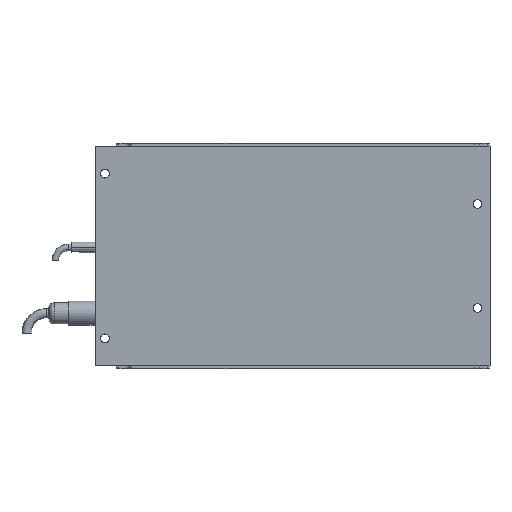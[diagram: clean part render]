
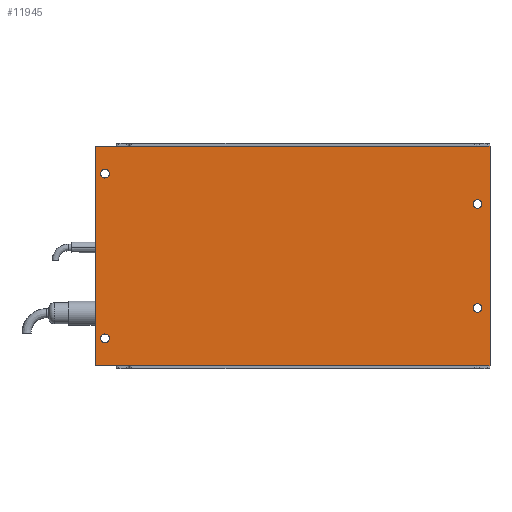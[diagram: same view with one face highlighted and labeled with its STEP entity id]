
A CAD part, front view. The second image highlights one B-rep face of the part: STEP entity #11945.
In plain terms, the highlighted planar face has unit normal (0, -1, 0).
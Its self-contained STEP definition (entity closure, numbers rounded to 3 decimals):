
#269 = VERTEX_POINT ( 'NONE', #46139 ) ;
#1352 = LINE ( 'NONE', #73366, #29131 ) ;
#1494 = VERTEX_POINT ( 'NONE', #44619 ) ;
#1538 = ORIENTED_EDGE ( 'NONE', *, *, #25619, .T. ) ;
#1790 = CARTESIAN_POINT ( 'NONE',  ( -9.5, 0., -46. ) ) ;
#2046 = DIRECTION ( 'NONE',  ( 0., 1., 0. ) ) ;
#2459 = CARTESIAN_POINT ( 'NONE',  ( -300., 0., -2. ) ) ;
#2572 = DIRECTION ( 'NONE',  ( 0., 0., 1. ) ) ;
#3563 = EDGE_LOOP ( 'NONE', ( #52544, #15536 ) ) ;
#5542 = DIRECTION ( 'NONE',  ( 0., 0., 1. ) ) ;
#5594 = DIRECTION ( 'NONE',  ( -1., 0., 0. ) ) ;
#7663 = EDGE_CURVE ( 'NONE', #33776, #16443, #18428, .T. ) ;
#7738 = DIRECTION ( 'NONE',  ( 0., 0., 1. ) ) ;
#8396 = FACE_BOUND ( 'NONE', #57342, .T. ) ;
#9105 = CARTESIAN_POINT ( 'NONE',  ( -300., 0., -2. ) ) ;
#9435 = AXIS2_PLACEMENT_3D ( 'NONE', #76348, #40951, #5542 ) ;
#10309 = EDGE_CURVE ( 'NONE', #43556, #63539, #40897, .T. ) ;
#10705 = VERTEX_POINT ( 'NONE', #37398 ) ;
#10805 = VECTOR ( 'NONE', #39934, 1000. ) ;
#11788 = VERTEX_POINT ( 'NONE', #33527 ) ;
#11945 = ADVANCED_FACE ( 'NONE', ( #24122, #8396, #55554, #69457, #53688 ), #14678, .F. ) ;
#12074 = EDGE_CURVE ( 'NONE', #16443, #33776, #20445, .T. ) ;
#12148 = CARTESIAN_POINT ( 'NONE',  ( -9.5, 0., -128.3 ) ) ;
#13333 = AXIS2_PLACEMENT_3D ( 'NONE', #18406, #59692, #24308 ) ;
#14445 = CIRCLE ( 'NONE', #9435, 3.3 ) ;
#14678 = PLANE ( 'NONE',  #20841 ) ;
#15536 = ORIENTED_EDGE ( 'NONE', *, *, #12074, .T. ) ;
#15756 = EDGE_CURVE ( 'NONE', #67729, #10705, #28621, .T. ) ;
#16401 = LINE ( 'NONE', #33999, #10805 ) ;
#16443 = VERTEX_POINT ( 'NONE', #12148 ) ;
#16828 = EDGE_CURVE ( 'NONE', #20492, #24366, #71933, .T. ) ;
#17529 = ORIENTED_EDGE ( 'NONE', *, *, #25644, .T. ) ;
#18406 = CARTESIAN_POINT ( 'NONE',  ( -292.5, 0., -148. ) ) ;
#18428 = CIRCLE ( 'NONE', #62416, 3.3 ) ;
#18676 = ORIENTED_EDGE ( 'NONE', *, *, #16828, .F. ) ;
#20445 = CIRCLE ( 'NONE', #24757, 3.3 ) ;
#20492 = VERTEX_POINT ( 'NONE', #34968 ) ;
#20803 = EDGE_CURVE ( 'NONE', #24366, #67729, #1352, .T. ) ;
#20841 = AXIS2_PLACEMENT_3D ( 'NONE', #50074, #73813, #38421 ) ;
#21250 = EDGE_LOOP ( 'NONE', ( #27485, #29146 ) ) ;
#22134 = CARTESIAN_POINT ( 'NONE',  ( -292.5, 0., -23. ) ) ;
#23965 = EDGE_LOOP ( 'NONE', ( #17529, #1538 ) ) ;
#24122 = FACE_BOUND ( 'NONE', #21250, .T. ) ;
#24308 = DIRECTION ( 'NONE',  ( 0., 0., 1. ) ) ;
#24366 = VERTEX_POINT ( 'NONE', #57489 ) ;
#24400 = EDGE_CURVE ( 'NONE', #10705, #20492, #16401, .T. ) ;
#24757 = AXIS2_PLACEMENT_3D ( 'NONE', #27313, #68647, #33280 ) ;
#24802 = VECTOR ( 'NONE', #5594, 1000. ) ;
#25305 = DIRECTION ( 'NONE',  ( 0., 1., 0. ) ) ;
#25619 = EDGE_CURVE ( 'NONE', #11788, #66579, #74465, .T. ) ;
#25644 = EDGE_CURVE ( 'NONE', #66579, #11788, #27328, .T. ) ;
#25891 = CARTESIAN_POINT ( 'NONE',  ( -9.5, 0., -125. ) ) ;
#26772 = EDGE_LOOP ( 'NONE', ( #26854, #35587, #42665, #18676 ) ) ;
#26854 = ORIENTED_EDGE ( 'NONE', *, *, #24400, .F. ) ;
#27313 = CARTESIAN_POINT ( 'NONE',  ( -9.5, 0., -125. ) ) ;
#27328 = CIRCLE ( 'NONE', #71170, 3.3 ) ;
#27485 = ORIENTED_EDGE ( 'NONE', *, *, #10309, .T. ) ;
#27587 = CARTESIAN_POINT ( 'NONE',  ( -9.5, 0., -121.7 ) ) ;
#28071 = DIRECTION ( 'NONE',  ( 0., 0., 1. ) ) ;
#28621 = LINE ( 'NONE', #2459, #72008 ) ;
#29131 = VECTOR ( 'NONE', #2572, 1000. ) ;
#29146 = ORIENTED_EDGE ( 'NONE', *, *, #38165, .T. ) ;
#31841 = DIRECTION ( 'NONE',  ( 0., 0., 1. ) ) ;
#32808 = CARTESIAN_POINT ( 'NONE',  ( -9.5, 0., -42.7 ) ) ;
#33280 = DIRECTION ( 'NONE',  ( 0., 0., 1. ) ) ;
#33527 = CARTESIAN_POINT ( 'NONE',  ( -9.5, 0., -49.3 ) ) ;
#33776 = VERTEX_POINT ( 'NONE', #27587 ) ;
#33999 = CARTESIAN_POINT ( 'NONE',  ( 0., 0., -169. ) ) ;
#34968 = CARTESIAN_POINT ( 'NONE',  ( 0., 0., -169. ) ) ;
#35587 = ORIENTED_EDGE ( 'NONE', *, *, #15756, .F. ) ;
#37398 = CARTESIAN_POINT ( 'NONE',  ( 0., 0., -2. ) ) ;
#37465 = CARTESIAN_POINT ( 'NONE',  ( -9.5, 0., -46. ) ) ;
#38165 = EDGE_CURVE ( 'NONE', #63539, #43556, #71430, .T. ) ;
#38421 = DIRECTION ( 'NONE',  ( 0., 0., 1. ) ) ;
#39934 = DIRECTION ( 'NONE',  ( 0., 0., -1. ) ) ;
#40897 = CIRCLE ( 'NONE', #13333, 3.3 ) ;
#40951 = DIRECTION ( 'NONE',  ( 0., 1., 0. ) ) ;
#41776 = CIRCLE ( 'NONE', #51067, 3.3 ) ;
#42665 = ORIENTED_EDGE ( 'NONE', *, *, #20803, .F. ) ;
#43158 = DIRECTION ( 'NONE',  ( 0., 1., 0. ) ) ;
#43425 = DIRECTION ( 'NONE',  ( 0., 0., 1. ) ) ;
#43556 = VERTEX_POINT ( 'NONE', #70971 ) ;
#44257 = AXIS2_PLACEMENT_3D ( 'NONE', #60684, #25305, #66615 ) ;
#44619 = CARTESIAN_POINT ( 'NONE',  ( -292.5, 0., -19.7 ) ) ;
#45873 = ORIENTED_EDGE ( 'NONE', *, *, #71513, .T. ) ;
#46139 = CARTESIAN_POINT ( 'NONE',  ( -292.5, 0., -26.3 ) ) ;
#49066 = CARTESIAN_POINT ( 'NONE',  ( -292.5, 0., -151.3 ) ) ;
#50074 = CARTESIAN_POINT ( 'NONE',  ( 0., 0., -2. ) ) ;
#51067 = AXIS2_PLACEMENT_3D ( 'NONE', #22134, #63447, #28071 ) ;
#52544 = ORIENTED_EDGE ( 'NONE', *, *, #7663, .T. ) ;
#53688 = FACE_OUTER_BOUND ( 'NONE', #26772, .T. ) ;
#55554 = FACE_BOUND ( 'NONE', #3563, .T. ) ;
#56372 = ORIENTED_EDGE ( 'NONE', *, *, #67059, .T. ) ;
#57342 = EDGE_LOOP ( 'NONE', ( #56372, #45873 ) ) ;
#57489 = CARTESIAN_POINT ( 'NONE',  ( -300., 0., -169. ) ) ;
#59692 = DIRECTION ( 'NONE',  ( 0., 1., 0. ) ) ;
#60684 = CARTESIAN_POINT ( 'NONE',  ( -292.5, 0., -148. ) ) ;
#61622 = DIRECTION ( 'NONE',  ( 1., 0., 0. ) ) ;
#62416 = AXIS2_PLACEMENT_3D ( 'NONE', #25891, #67222, #31841 ) ;
#63271 = AXIS2_PLACEMENT_3D ( 'NONE', #1790, #43158, #7738 ) ;
#63447 = DIRECTION ( 'NONE',  ( 0., 1., 0. ) ) ;
#63539 = VERTEX_POINT ( 'NONE', #49066 ) ;
#66579 = VERTEX_POINT ( 'NONE', #32808 ) ;
#66615 = DIRECTION ( 'NONE',  ( 0., 0., 1. ) ) ;
#67059 = EDGE_CURVE ( 'NONE', #1494, #269, #14445, .T. ) ;
#67222 = DIRECTION ( 'NONE',  ( 0., 1., 0. ) ) ;
#67729 = VERTEX_POINT ( 'NONE', #9105 ) ;
#68647 = DIRECTION ( 'NONE',  ( 0., 1., 0. ) ) ;
#69457 = FACE_BOUND ( 'NONE', #23965, .T. ) ;
#70971 = CARTESIAN_POINT ( 'NONE',  ( -292.5, 0., -144.7 ) ) ;
#71170 = AXIS2_PLACEMENT_3D ( 'NONE', #37465, #2046, #43425 ) ;
#71430 = CIRCLE ( 'NONE', #44257, 3.3 ) ;
#71513 = EDGE_CURVE ( 'NONE', #269, #1494, #41776, .T. ) ;
#71933 = LINE ( 'NONE', #76400, #24802 ) ;
#72008 = VECTOR ( 'NONE', #61622, 1000. ) ;
#73366 = CARTESIAN_POINT ( 'NONE',  ( -300., 0., -169. ) ) ;
#73813 = DIRECTION ( 'NONE',  ( 0., 1., 0. ) ) ;
#74465 = CIRCLE ( 'NONE', #63271, 3.3 ) ;
#76348 = CARTESIAN_POINT ( 'NONE',  ( -292.5, 0., -23. ) ) ;
#76400 = CARTESIAN_POINT ( 'NONE',  ( -300., 0., -169. ) ) ;
